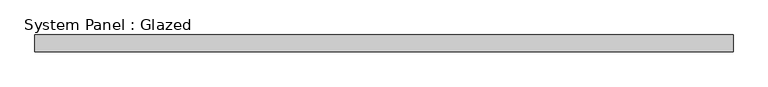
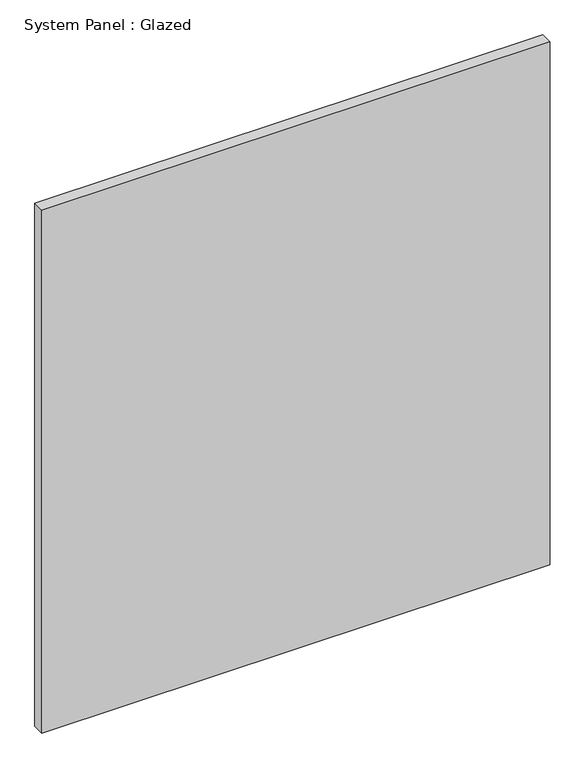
"""IFC4 building model written with IfcOpenShell, lengths in millimetres: plate geometry, System Panel : Glazed."""

from ifc_helpers import new_model, si_unit, origin, origin_with_axes, place, context, project, spatial, polyline, outline, extrude, source, transform, mapped, element, save


def system_panel_glazed_f884b1e2(model_context):
    return source(origin(), model_context, "Body", "SweptSolid", [
        extrude(outline(polyline([(517.5, -12.5), (-517.5, -12.5), (-517.5, 12.5), (517.5, 12.5), (517.5, -12.5)])), origin_with_axes(), (0.0, 0.0, 1.0), 1125.0),
    ])


if __name__ == "__main__":
    model = new_model("IFC4")
    model_context = context("Model", 3, world=origin())
    ifc_project = project(units=[si_unit("LENGTHUNIT", "METRE", prefix="MILLI")], contexts=[model_context])
    site = spatial("IfcSite", under=ifc_project)
    building = spatial("IfcBuilding", under=site)
    placement = place(None, origin())
    system_panel_glazed_shape = system_panel_glazed_f884b1e2(model_context)
    element("IfcPlate", 1, ObjectType="System Panel : Glazed", at=placement, inside=building, context=model_context, shape_type="MappedRepresentation", body=[
        mapped(system_panel_glazed_shape, transform((0.0, 0.0, 0.0), x_axis=(1.0, 0.0, 0.0), y_axis=(0.0, 1.0, 0.0), z_axis=(0.0, 0.0, 1.0))),
    ])
    save(model, "model.ifc")
